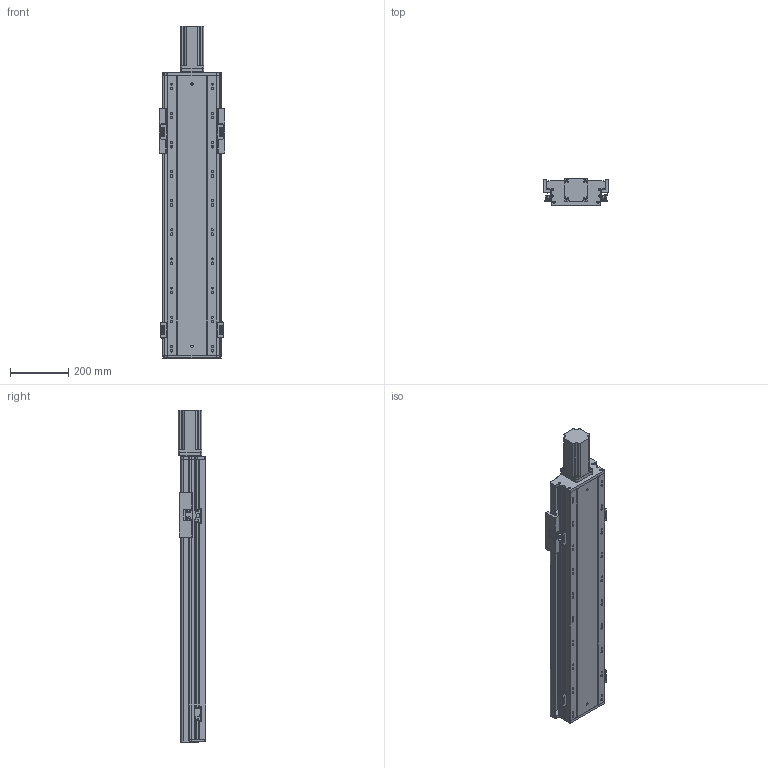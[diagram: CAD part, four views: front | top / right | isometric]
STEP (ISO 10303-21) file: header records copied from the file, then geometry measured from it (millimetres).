
FILE_DESCRIPTION (( 'STEP AP203' ), '1' );
FILE_NAME ('RY170FB-L2510-300-MK.SLDASM_650.step', '2021-02-22T08:56:40', ( '盈信电脑' ), ( '东莞市道滘镇水果街19号' ), 'SwSTEP 2.0', 'SolidWorks 2012', '' );
FILE_SCHEMA (( 'CONFIG_CONTROL_DESIGN' ));
Length unit declared in the file: millimetre
Products named in the file (16): RY140FB-覜茼え; RY170FB-L2510-300-MK.SLDASM_650; RY140-674嫖萇耀輸; RY140FB-674嫖萇覜茼え; RY140直线电机感应器674光电安装座; 750W萇儂梓袧蛌諉啣; RY170FB-300奻裔_650; 覜茼ん674; 侂狟750W萇儂ㄗ80遺ㄘ; 滅袉蝶18-10; RY170FB-ヶ裔啣; 滅袉蝶18-28; RY170FB-铝滑块(25丝杆）; RY170FB-300倰第菁釱-MK_650; RY170FB-綴裔啣
Assembly tree (20 placements, depth 3):
  RY170FB-L2510-300-MK.SLDASM_650
    RY170FB-300倰第菁釱-MK_650
    RY170FB-綴裔啣
    RY170FB-ヶ裔啣
    滅袉蝶18-28
    滅袉蝶18-10
    RY170FB-铝滑块(25丝杆）
    RY170FB-300奻裔_650
    750W萇儂梓袧蛌諉啣
    侂狟750W萇儂ㄗ80遺ㄘ
    RY140-674嫖萇耀輸  x2
      覜茼ん674
      RY140直线电机感应器674光电安装座
    RY140FB-674嫖萇覜茼え
    RY140-674嫖萇耀輸  x2
      覜茼ん674
      RY140直线电机感应器674光电安装座
    RY140FB-覜茼え
Bounding box: 225 x 93.2 x 1139.5 mm (x, y, z)
Volume: 6256387.1 mm3; surface area: 1745979.7 mm2
Topology: 21 solids, 21 shells, 1655 faces, 4777 edges, 3074 vertices
Faces by surface type: cylinder 782, plane 761, cone 112
Entity records: 43245 total; most frequent: CARTESIAN_POINT 9544, ORIENTED_EDGE 6782, DIRECTION 6645, EDGE_CURVE 3391, AXIS2_PLACEMENT_3D 2419, VERTEX_POINT 2228, VECTOR 1807, LINE 1807
